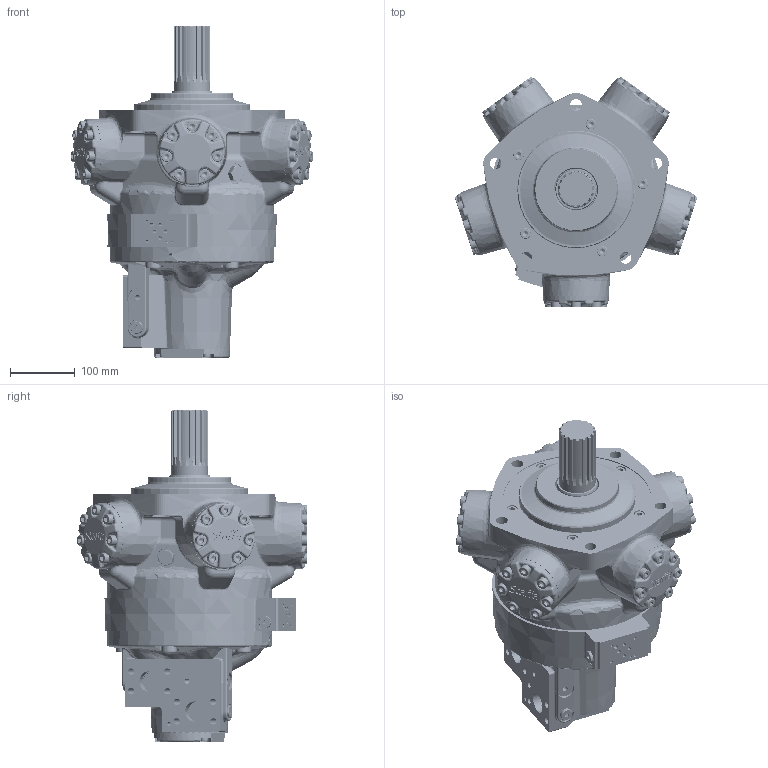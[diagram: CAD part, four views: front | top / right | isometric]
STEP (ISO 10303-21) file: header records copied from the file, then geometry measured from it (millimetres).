
FILE_DESCRIPTION((''),'2;1');
FILE_NAME('I:\3D Step files\Staffa\HMC030 S FM3 CS 51.stp','2009-07-06T08:51:05',('mnorman'),(''),'Autodesk Inventor 2010','Autodesk Inventor 2010','');
FILE_SCHEMA(('AUTOMOTIVE_DESIGN { 1 0 10303 214 1 1 1 1 }'));
Length unit declared in the file: millimetre
Products named in the file (1): Part2
Bounding box: 373.47 x 355.31 x 511.16 mm (x, y, z)
Volume: 12744034.1 mm3; surface area: 1129501.4 mm2
Topology: 101 solids, 101 shells, 3841 faces, 9642 edges, 5995 vertices
Faces by surface type: bspline 1473, plane 1184, cylinder 500, torus 294, cone 270, sphere 120
Full cylindrical faces by diameter (mm): 4 x1, 6.2 x1, 7.938 x4, 8.016 x1, 8.382 x15, 10 x40, 10.8 x5, 11.8 x2, 11.913 x4, 12 x1, 13.614 x1, 14.656 x2, 15.875 x5, 16 x40, 16.7 x5, 17 x5, 17.78 x1, 18 x4, 18.5 x1, 19 x2, 22 x10, 23.825 x5, 24.892 x2, 27.495 x1, 28.677 x5, 31.75 x5, 32 x2, 38.176 x5, 44 x5, 51.918 x5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
Entity records: 155510 total; most frequent: CARTESIAN_POINT 75773, ORIENTED_EDGE 16504, DIRECTION 12940, EDGE_CURVE 8252, VERTEX_POINT 5535, AXIS2_PLACEMENT_3D 5201, EDGE_LOOP 4903, FACE_OUTER_BOUND 3840
